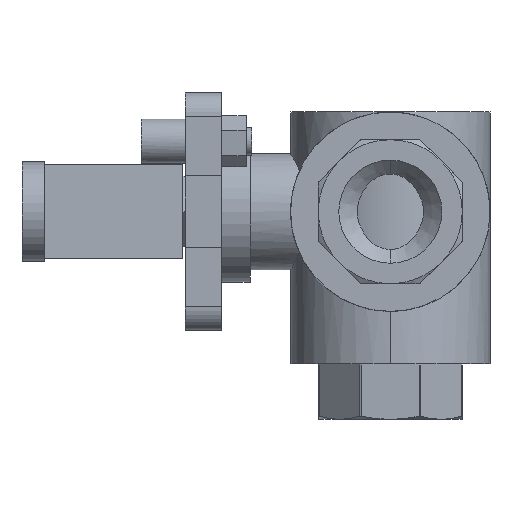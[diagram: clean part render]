
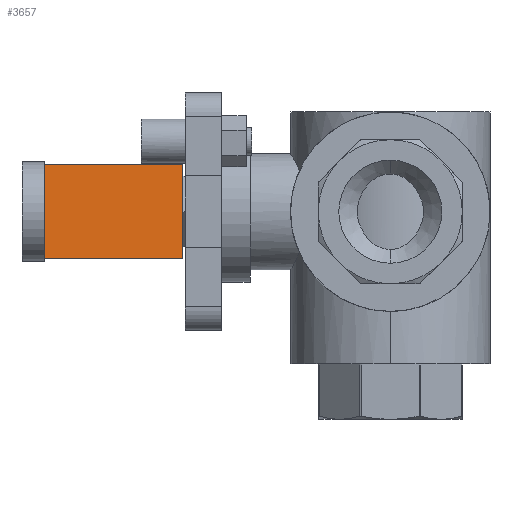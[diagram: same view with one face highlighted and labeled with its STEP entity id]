
A CAD part, left-side view. The second image highlights one B-rep face of the part: STEP entity #3657.
In plain terms, the highlighted planar face has unit normal (-0.707, -0.707, 0).
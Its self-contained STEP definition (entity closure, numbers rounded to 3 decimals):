
#308 = VERTEX_POINT ( 'NONE', #4853 ) ;
#392 = ORIENTED_EDGE ( 'NONE', *, *, #4999, .T. ) ;
#494 = DIRECTION ( 'NONE',  ( 0.707, 0.707, 0. ) ) ;
#822 = VECTOR ( 'NONE', #4923, 1000. ) ;
#1244 = CARTESIAN_POINT ( 'NONE',  ( -47., 63., -8.5 ) ) ;
#1356 = VERTEX_POINT ( 'NONE', #5261 ) ;
#1384 = CARTESIAN_POINT ( 'NONE',  ( -47., 63., 8.5 ) ) ;
#1386 = CARTESIAN_POINT ( 'NONE',  ( -47., 63., 8.5 ) ) ;
#1465 = VECTOR ( 'NONE', #2330, 1000. ) ;
#1592 = EDGE_LOOP ( 'NONE', ( #3276, #6720, #3740, #392 ) ) ;
#1700 = FACE_OUTER_BOUND ( 'NONE', #1592, .T. ) ;
#1763 = CARTESIAN_POINT ( 'NONE',  ( -47., 63., 8.5 ) ) ;
#1906 = DIRECTION ( 'NONE',  ( 0.707, -0.707, 0. ) ) ;
#2057 = EDGE_CURVE ( 'NONE', #1356, #308, #5018, .T. ) ;
#2330 = DIRECTION ( 'NONE',  ( 0., 0., -1. ) ) ;
#2361 = LINE ( 'NONE', #5658, #3436 ) ;
#2379 = LINE ( 'NONE', #1386, #5007 ) ;
#2873 = LINE ( 'NONE', #1763, #1465 ) ;
#3276 = ORIENTED_EDGE ( 'NONE', *, *, #2057, .T. ) ;
#3436 = VECTOR ( 'NONE', #6170, 1000. ) ;
#3639 = CARTESIAN_POINT ( 'NONE',  ( -47., 63., 8.5 ) ) ;
#3657 = ADVANCED_FACE ( 'NONE', ( #1700 ), #6782, .F. ) ;
#3740 = ORIENTED_EDGE ( 'NONE', *, *, #5610, .F. ) ;
#4174 = DIRECTION ( 'NONE',  ( -0.707, 0.707, 0. ) ) ;
#4853 = CARTESIAN_POINT ( 'NONE',  ( -21.5, 37.5, -8.5 ) ) ;
#4923 = DIRECTION ( 'NONE',  ( 0.707, -0.707, 0. ) ) ;
#4999 = EDGE_CURVE ( 'NONE', #6584, #1356, #2873, .T. ) ;
#5007 = VECTOR ( 'NONE', #1906, 1000. ) ;
#5018 = LINE ( 'NONE', #1244, #822 ) ;
#5261 = CARTESIAN_POINT ( 'NONE',  ( -47., 63., -8.5 ) ) ;
#5610 = EDGE_CURVE ( 'NONE', #6584, #6789, #2379, .T. ) ;
#5658 = CARTESIAN_POINT ( 'NONE',  ( -21.5, 37.5, 8.5 ) ) ;
#5846 = CARTESIAN_POINT ( 'NONE',  ( -21.5, 37.5, 8.5 ) ) ;
#6170 = DIRECTION ( 'NONE',  ( 0., 0., -1. ) ) ;
#6310 = AXIS2_PLACEMENT_3D ( 'NONE', #3639, #494, #4174 ) ;
#6584 = VERTEX_POINT ( 'NONE', #1384 ) ;
#6658 = EDGE_CURVE ( 'NONE', #6789, #308, #2361, .T. ) ;
#6720 = ORIENTED_EDGE ( 'NONE', *, *, #6658, .F. ) ;
#6782 = PLANE ( 'NONE',  #6310 ) ;
#6789 = VERTEX_POINT ( 'NONE', #5846 ) ;
